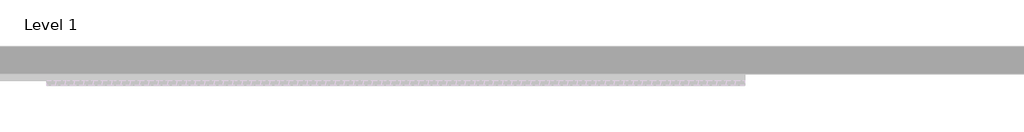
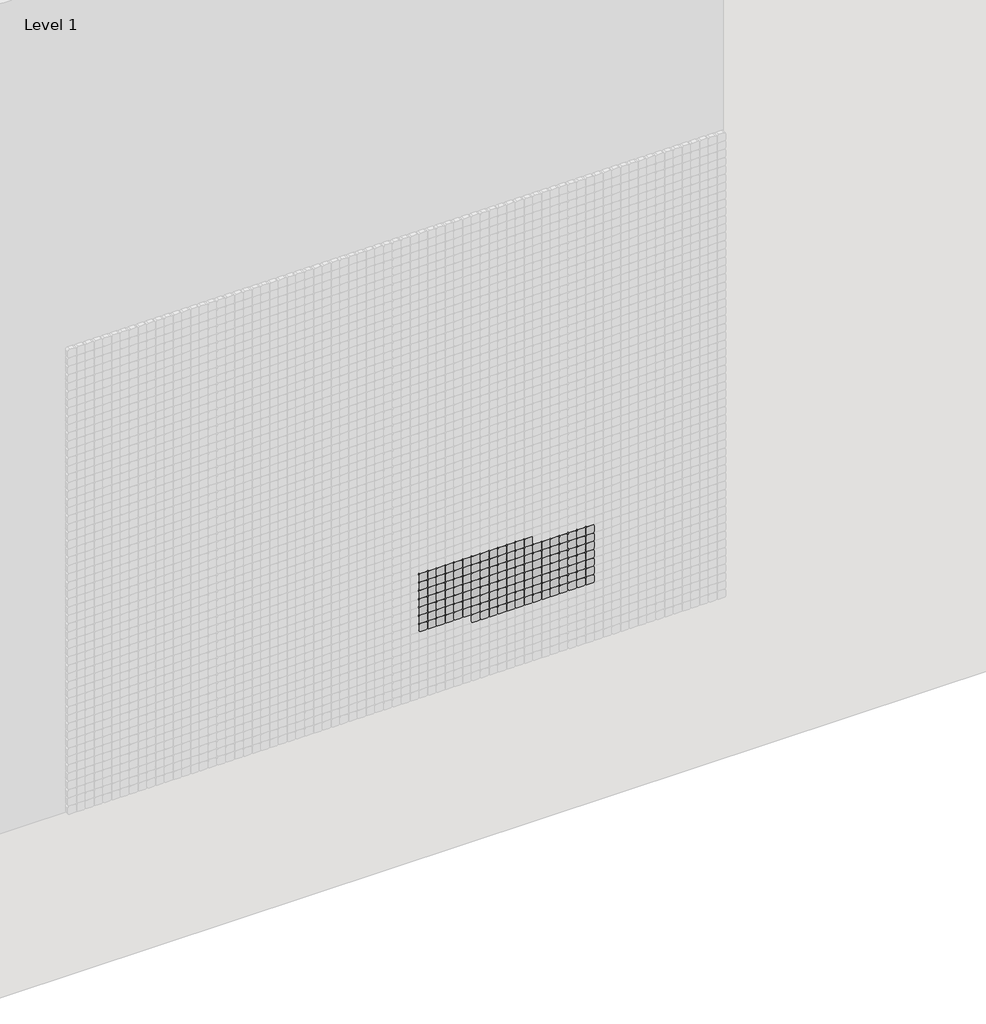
# One storey, part 60 of 71: 147 proxies.
"""IFC4 building model written with IfcOpenShell, lengths in millimetres."""

from ifc_helpers import new_model, si_unit, origin, place, context, project, spatial, transform, mapped, element, save
from components import generic_models_afde289c

model = new_model("IFC4")

# Units and contexts
model_context = context("Model", 3, world=origin())
ifc_project = project(units=[si_unit("LENGTHUNIT", "METRE", prefix="MILLI")], contexts=[model_context])

# Site, building, storey
site = spatial("IfcSite", under=ifc_project)
building = spatial("IfcBuilding", under=site)
storey = spatial("IfcBuildingStorey", under=building, Name="Level 1", Elevation=0.0)

# Proxies
placement = place(None, origin())
generic_models_shape = generic_models_afde289c(model_context)
element("IfcBuildingElementProxy", 1, Name="Pixel_M : Pixel_M", ObjectType="Pixel_M : Pixel_M", at=placement, inside=storey, context=model_context, shape_type="MappedRepresentation", body=[
    mapped(generic_models_shape, transform((8612.4280941, -75.0, 1716.3566215), x_axis=(1.0, 0.0, 0.0), y_axis=(0.0, 0.0, 1.0), z_axis=(0.0, -1.0, 0.0))),
])
element("IfcBuildingElementProxy", 2, Name="Pixel_M : Pixel_M", ObjectType="Pixel_M : Pixel_M", at=placement, inside=storey, context=model_context, shape_type="MappedRepresentation", body=[
    mapped(generic_models_shape, transform((8562.4280941, -75.0, 1716.3566215), x_axis=(1.0, 0.0, 0.0), y_axis=(0.0, 0.0, 1.0), z_axis=(0.0, -1.0, 0.0))),
])
element("IfcBuildingElementProxy", 3, Name="Pixel_M : Pixel_M", ObjectType="Pixel_M : Pixel_M", at=placement, inside=storey, context=model_context, shape_type="MappedRepresentation", body=[
    mapped(generic_models_shape, transform((8512.4280941, -75.0, 1716.3566215), x_axis=(1.0, 0.0, 0.0), y_axis=(0.0, 0.0, 1.0), z_axis=(0.0, -1.0, 0.0))),
])
element("IfcBuildingElementProxy", 4, Name="Pixel_M : Pixel_M", ObjectType="Pixel_M : Pixel_M", at=placement, inside=storey, context=model_context, shape_type="MappedRepresentation", body=[
    mapped(generic_models_shape, transform((8462.4280941, -75.0, 1716.3566215), x_axis=(1.0, 0.0, 0.0), y_axis=(0.0, 0.0, 1.0), z_axis=(0.0, -1.0, 0.0))),
])
element("IfcBuildingElementProxy", 5, Name="Pixel_M : Pixel_M", ObjectType="Pixel_M : Pixel_M", at=placement, inside=storey, context=model_context, shape_type="MappedRepresentation", body=[
    mapped(generic_models_shape, transform((8412.4280941, -75.0, 1716.3566215), x_axis=(1.0, 0.0, 0.0), y_axis=(0.0, 0.0, 1.0), z_axis=(0.0, -1.0, 0.0))),
])
element("IfcBuildingElementProxy", 6, Name="Pixel_M : Pixel_M", ObjectType="Pixel_M : Pixel_M", at=placement, inside=storey, context=model_context, shape_type="MappedRepresentation", body=[
    mapped(generic_models_shape, transform((8362.4280941, -75.0, 1716.3566215), x_axis=(1.0, 0.0, 0.0), y_axis=(0.0, 0.0, 1.0), z_axis=(0.0, -1.0, 0.0))),
])
element("IfcBuildingElementProxy", 7, Name="Pixel_M : Pixel_M", ObjectType="Pixel_M : Pixel_M", at=placement, inside=storey, context=model_context, shape_type="MappedRepresentation", body=[
    mapped(generic_models_shape, transform((8312.4280941, -75.0, 1716.3566215), x_axis=(1.0, 0.0, 0.0), y_axis=(0.0, 0.0, 1.0), z_axis=(0.0, -1.0, 0.0))),
])
element("IfcBuildingElementProxy", 8, Name="Pixel_M : Pixel_M", ObjectType="Pixel_M : Pixel_M", at=placement, inside=storey, context=model_context, shape_type="MappedRepresentation", body=[
    mapped(generic_models_shape, transform((8262.4280941, -75.0, 1716.3566215), x_axis=(1.0, 0.0, 0.0), y_axis=(0.0, 0.0, 1.0), z_axis=(0.0, -1.0, 0.0))),
])
element("IfcBuildingElementProxy", 9, Name="Pixel_M : Pixel_M", ObjectType="Pixel_M : Pixel_M", at=placement, inside=storey, context=model_context, shape_type="MappedRepresentation", body=[
    mapped(generic_models_shape, transform((8212.4280941, -75.0, 1716.3566215), x_axis=(1.0, 0.0, 0.0), y_axis=(0.0, 0.0, 1.0), z_axis=(0.0, -1.0, 0.0))),
])
element("IfcBuildingElementProxy", 10, Name="Pixel_M : Pixel_M", ObjectType="Pixel_M : Pixel_M", at=placement, inside=storey, context=model_context, shape_type="MappedRepresentation", body=[
    mapped(generic_models_shape, transform((8162.4280941, -75.0, 1716.3566215), x_axis=(1.0, 0.0, 0.0), y_axis=(0.0, 0.0, 1.0), z_axis=(0.0, -1.0, 0.0))),
])
element("IfcBuildingElementProxy", 11, Name="Pixel_M : Pixel_M", ObjectType="Pixel_M : Pixel_M", at=placement, inside=storey, context=model_context, shape_type="MappedRepresentation", body=[
    mapped(generic_models_shape, transform((8112.4280941, -75.0, 1716.3566215), x_axis=(1.0, 0.0, 0.0), y_axis=(0.0, 0.0, 1.0), z_axis=(0.0, -1.0, 0.0))),
])
element("IfcBuildingElementProxy", 12, Name="Pixel_M : Pixel_M", ObjectType="Pixel_M : Pixel_M", at=placement, inside=storey, context=model_context, shape_type="MappedRepresentation", body=[
    mapped(generic_models_shape, transform((8062.4280941, -75.0, 1716.3566215), x_axis=(1.0, 0.0, 0.0), y_axis=(0.0, 0.0, 1.0), z_axis=(0.0, -1.0, 0.0))),
])
element("IfcBuildingElementProxy", 13, Name="Pixel_M : Pixel_M", ObjectType="Pixel_M : Pixel_M", at=placement, inside=storey, context=model_context, shape_type="MappedRepresentation", body=[
    mapped(generic_models_shape, transform((8012.4280941, -75.0, 1716.3566215), x_axis=(1.0, 0.0, 0.0), y_axis=(0.0, 0.0, 1.0), z_axis=(0.0, -1.0, 0.0))),
])
element("IfcBuildingElementProxy", 14, Name="Pixel_M : Pixel_M", ObjectType="Pixel_M : Pixel_M", at=placement, inside=storey, context=model_context, shape_type="MappedRepresentation", body=[
    mapped(generic_models_shape, transform((8962.4280941, -75.0, 1666.3566215), x_axis=(1.0, 0.0, 0.0), y_axis=(0.0, 0.0, 1.0), z_axis=(0.0, -1.0, 0.0))),
])
element("IfcBuildingElementProxy", 15, Name="Pixel_M : Pixel_M", ObjectType="Pixel_M : Pixel_M", at=placement, inside=storey, context=model_context, shape_type="MappedRepresentation", body=[
    mapped(generic_models_shape, transform((8912.4280941, -75.0, 1666.3566215), x_axis=(1.0, 0.0, 0.0), y_axis=(0.0, 0.0, 1.0), z_axis=(0.0, -1.0, 0.0))),
])
element("IfcBuildingElementProxy", 16, Name="Pixel_M : Pixel_M", ObjectType="Pixel_M : Pixel_M", at=placement, inside=storey, context=model_context, shape_type="MappedRepresentation", body=[
    mapped(generic_models_shape, transform((8862.4280941, -75.0, 1666.3566215), x_axis=(1.0, 0.0, 0.0), y_axis=(0.0, 0.0, 1.0), z_axis=(0.0, -1.0, 0.0))),
])
element("IfcBuildingElementProxy", 17, Name="Pixel_M : Pixel_M", ObjectType="Pixel_M : Pixel_M", at=placement, inside=storey, context=model_context, shape_type="MappedRepresentation", body=[
    mapped(generic_models_shape, transform((8812.4280941, -75.0, 1666.3566215), x_axis=(1.0, 0.0, 0.0), y_axis=(0.0, 0.0, 1.0), z_axis=(0.0, -1.0, 0.0))),
])
element("IfcBuildingElementProxy", 18, Name="Pixel_M : Pixel_M", ObjectType="Pixel_M : Pixel_M", at=placement, inside=storey, context=model_context, shape_type="MappedRepresentation", body=[
    mapped(generic_models_shape, transform((8762.4280941, -75.0, 1666.3566215), x_axis=(1.0, 0.0, 0.0), y_axis=(0.0, 0.0, 1.0), z_axis=(0.0, -1.0, 0.0))),
])
element("IfcBuildingElementProxy", 19, Name="Pixel_M : Pixel_M", ObjectType="Pixel_M : Pixel_M", at=placement, inside=storey, context=model_context, shape_type="MappedRepresentation", body=[
    mapped(generic_models_shape, transform((8712.4280941, -75.0, 1666.3566215), x_axis=(1.0, 0.0, 0.0), y_axis=(0.0, 0.0, 1.0), z_axis=(0.0, -1.0, 0.0))),
])
element("IfcBuildingElementProxy", 20, Name="Pixel_M : Pixel_M", ObjectType="Pixel_M : Pixel_M", at=placement, inside=storey, context=model_context, shape_type="MappedRepresentation", body=[
    mapped(generic_models_shape, transform((8662.4280941, -75.0, 1666.3566215), x_axis=(1.0, 0.0, 0.0), y_axis=(0.0, 0.0, 1.0), z_axis=(0.0, -1.0, 0.0))),
])
element("IfcBuildingElementProxy", 21, Name="Pixel_M : Pixel_M", ObjectType="Pixel_M : Pixel_M", at=placement, inside=storey, context=model_context, shape_type="MappedRepresentation", body=[
    mapped(generic_models_shape, transform((8612.4280941, -75.0, 1666.3566215), x_axis=(1.0, 0.0, 0.0), y_axis=(0.0, 0.0, 1.0), z_axis=(0.0, -1.0, 0.0))),
])
element("IfcBuildingElementProxy", 22, Name="Pixel_M : Pixel_M", ObjectType="Pixel_M : Pixel_M", at=placement, inside=storey, context=model_context, shape_type="MappedRepresentation", body=[
    mapped(generic_models_shape, transform((8562.4280941, -75.0, 1666.3566215), x_axis=(1.0, 0.0, 0.0), y_axis=(0.0, 0.0, 1.0), z_axis=(0.0, -1.0, 0.0))),
])
element("IfcBuildingElementProxy", 23, Name="Pixel_M : Pixel_M", ObjectType="Pixel_M : Pixel_M", at=placement, inside=storey, context=model_context, shape_type="MappedRepresentation", body=[
    mapped(generic_models_shape, transform((8512.4280941, -75.0, 1666.3566215), x_axis=(1.0, 0.0, 0.0), y_axis=(0.0, 0.0, 1.0), z_axis=(0.0, -1.0, 0.0))),
])
element("IfcBuildingElementProxy", 24, Name="Pixel_M : Pixel_M", ObjectType="Pixel_M : Pixel_M", at=placement, inside=storey, context=model_context, shape_type="MappedRepresentation", body=[
    mapped(generic_models_shape, transform((8462.4280941, -75.0, 1666.3566215), x_axis=(1.0, 0.0, 0.0), y_axis=(0.0, 0.0, 1.0), z_axis=(0.0, -1.0, 0.0))),
])
element("IfcBuildingElementProxy", 25, Name="Pixel_M : Pixel_M", ObjectType="Pixel_M : Pixel_M", at=placement, inside=storey, context=model_context, shape_type="MappedRepresentation", body=[
    mapped(generic_models_shape, transform((8412.4280941, -75.0, 1666.3566215), x_axis=(1.0, 0.0, 0.0), y_axis=(0.0, 0.0, 1.0), z_axis=(0.0, -1.0, 0.0))),
])
element("IfcBuildingElementProxy", 26, Name="Pixel_M : Pixel_M", ObjectType="Pixel_M : Pixel_M", at=placement, inside=storey, context=model_context, shape_type="MappedRepresentation", body=[
    mapped(generic_models_shape, transform((8362.4280941, -75.0, 1666.3566215), x_axis=(1.0, 0.0, 0.0), y_axis=(0.0, 0.0, 1.0), z_axis=(0.0, -1.0, 0.0))),
])
element("IfcBuildingElementProxy", 27, Name="Pixel_M : Pixel_M", ObjectType="Pixel_M : Pixel_M", at=placement, inside=storey, context=model_context, shape_type="MappedRepresentation", body=[
    mapped(generic_models_shape, transform((8312.4280941, -75.0, 1666.3566215), x_axis=(1.0, 0.0, 0.0), y_axis=(0.0, 0.0, 1.0), z_axis=(0.0, -1.0, 0.0))),
])
element("IfcBuildingElementProxy", 28, Name="Pixel_M : Pixel_M", ObjectType="Pixel_M : Pixel_M", at=placement, inside=storey, context=model_context, shape_type="MappedRepresentation", body=[
    mapped(generic_models_shape, transform((8262.4280941, -75.0, 1666.3566215), x_axis=(1.0, 0.0, 0.0), y_axis=(0.0, 0.0, 1.0), z_axis=(0.0, -1.0, 0.0))),
])
element("IfcBuildingElementProxy", 29, Name="Pixel_M : Pixel_M", ObjectType="Pixel_M : Pixel_M", at=placement, inside=storey, context=model_context, shape_type="MappedRepresentation", body=[
    mapped(generic_models_shape, transform((8212.4280941, -75.0, 1666.3566215), x_axis=(1.0, 0.0, 0.0), y_axis=(0.0, 0.0, 1.0), z_axis=(0.0, -1.0, 0.0))),
])
element("IfcBuildingElementProxy", 30, Name="Pixel_M : Pixel_M", ObjectType="Pixel_M : Pixel_M", at=placement, inside=storey, context=model_context, shape_type="MappedRepresentation", body=[
    mapped(generic_models_shape, transform((8162.4280941, -75.0, 1666.3566215), x_axis=(1.0, 0.0, 0.0), y_axis=(0.0, 0.0, 1.0), z_axis=(0.0, -1.0, 0.0))),
])
element("IfcBuildingElementProxy", 31, Name="Pixel_M : Pixel_M", ObjectType="Pixel_M : Pixel_M", at=placement, inside=storey, context=model_context, shape_type="MappedRepresentation", body=[
    mapped(generic_models_shape, transform((8112.4280941, -75.0, 1666.3566215), x_axis=(1.0, 0.0, 0.0), y_axis=(0.0, 0.0, 1.0), z_axis=(0.0, -1.0, 0.0))),
])
element("IfcBuildingElementProxy", 32, Name="Pixel_M : Pixel_M", ObjectType="Pixel_M : Pixel_M", at=placement, inside=storey, context=model_context, shape_type="MappedRepresentation", body=[
    mapped(generic_models_shape, transform((8062.4280941, -75.0, 1666.3566215), x_axis=(1.0, 0.0, 0.0), y_axis=(0.0, 0.0, 1.0), z_axis=(0.0, -1.0, 0.0))),
])
element("IfcBuildingElementProxy", 33, Name="Pixel_M : Pixel_M", ObjectType="Pixel_M : Pixel_M", at=placement, inside=storey, context=model_context, shape_type="MappedRepresentation", body=[
    mapped(generic_models_shape, transform((8012.4280941, -75.0, 1666.3566215), x_axis=(1.0, 0.0, 0.0), y_axis=(0.0, 0.0, 1.0), z_axis=(0.0, -1.0, 0.0))),
])
element("IfcBuildingElementProxy", 34, Name="Pixel_M : Pixel_M", ObjectType="Pixel_M : Pixel_M", at=placement, inside=storey, context=model_context, shape_type="MappedRepresentation", body=[
    mapped(generic_models_shape, transform((8962.4280941, -75.0, 1616.3566215), x_axis=(1.0, 0.0, 0.0), y_axis=(0.0, 0.0, 1.0), z_axis=(0.0, -1.0, 0.0))),
])
element("IfcBuildingElementProxy", 35, Name="Pixel_M : Pixel_M", ObjectType="Pixel_M : Pixel_M", at=placement, inside=storey, context=model_context, shape_type="MappedRepresentation", body=[
    mapped(generic_models_shape, transform((8912.4280941, -75.0, 1616.3566215), x_axis=(1.0, 0.0, 0.0), y_axis=(0.0, 0.0, 1.0), z_axis=(0.0, -1.0, 0.0))),
])
element("IfcBuildingElementProxy", 36, Name="Pixel_M : Pixel_M", ObjectType="Pixel_M : Pixel_M", at=placement, inside=storey, context=model_context, shape_type="MappedRepresentation", body=[
    mapped(generic_models_shape, transform((8862.4280941, -75.0, 1616.3566215), x_axis=(1.0, 0.0, 0.0), y_axis=(0.0, 0.0, 1.0), z_axis=(0.0, -1.0, 0.0))),
])
element("IfcBuildingElementProxy", 37, Name="Pixel_M : Pixel_M", ObjectType="Pixel_M : Pixel_M", at=placement, inside=storey, context=model_context, shape_type="MappedRepresentation", body=[
    mapped(generic_models_shape, transform((8812.4280941, -75.0, 1616.3566215), x_axis=(1.0, 0.0, 0.0), y_axis=(0.0, 0.0, 1.0), z_axis=(0.0, -1.0, 0.0))),
])
element("IfcBuildingElementProxy", 38, Name="Pixel_M : Pixel_M", ObjectType="Pixel_M : Pixel_M", at=placement, inside=storey, context=model_context, shape_type="MappedRepresentation", body=[
    mapped(generic_models_shape, transform((8762.4280941, -75.0, 1616.3566215), x_axis=(1.0, 0.0, 0.0), y_axis=(0.0, 0.0, 1.0), z_axis=(0.0, -1.0, 0.0))),
])
element("IfcBuildingElementProxy", 39, Name="Pixel_M : Pixel_M", ObjectType="Pixel_M : Pixel_M", at=placement, inside=storey, context=model_context, shape_type="MappedRepresentation", body=[
    mapped(generic_models_shape, transform((8712.4280941, -75.0, 1616.3566215), x_axis=(1.0, 0.0, 0.0), y_axis=(0.0, 0.0, 1.0), z_axis=(0.0, -1.0, 0.0))),
])
element("IfcBuildingElementProxy", 40, Name="Pixel_M : Pixel_M", ObjectType="Pixel_M : Pixel_M", at=placement, inside=storey, context=model_context, shape_type="MappedRepresentation", body=[
    mapped(generic_models_shape, transform((8662.4280941, -75.0, 1616.3566215), x_axis=(1.0, 0.0, 0.0), y_axis=(0.0, 0.0, 1.0), z_axis=(0.0, -1.0, 0.0))),
])
element("IfcBuildingElementProxy", 41, Name="Pixel_M : Pixel_M", ObjectType="Pixel_M : Pixel_M", at=placement, inside=storey, context=model_context, shape_type="MappedRepresentation", body=[
    mapped(generic_models_shape, transform((8612.4280941, -75.0, 1616.3566215), x_axis=(1.0, 0.0, 0.0), y_axis=(0.0, 0.0, 1.0), z_axis=(0.0, -1.0, 0.0))),
])
element("IfcBuildingElementProxy", 42, Name="Pixel_M : Pixel_M", ObjectType="Pixel_M : Pixel_M", at=placement, inside=storey, context=model_context, shape_type="MappedRepresentation", body=[
    mapped(generic_models_shape, transform((8562.4280941, -75.0, 1616.3566215), x_axis=(1.0, 0.0, 0.0), y_axis=(0.0, 0.0, 1.0), z_axis=(0.0, -1.0, 0.0))),
])
element("IfcBuildingElementProxy", 43, Name="Pixel_M : Pixel_M", ObjectType="Pixel_M : Pixel_M", at=placement, inside=storey, context=model_context, shape_type="MappedRepresentation", body=[
    mapped(generic_models_shape, transform((8512.4280941, -75.0, 1616.3566215), x_axis=(1.0, 0.0, 0.0), y_axis=(0.0, 0.0, 1.0), z_axis=(0.0, -1.0, 0.0))),
])
element("IfcBuildingElementProxy", 44, Name="Pixel_M : Pixel_M", ObjectType="Pixel_M : Pixel_M", at=placement, inside=storey, context=model_context, shape_type="MappedRepresentation", body=[
    mapped(generic_models_shape, transform((8462.4280941, -75.0, 1616.3566215), x_axis=(1.0, 0.0, 0.0), y_axis=(0.0, 0.0, 1.0), z_axis=(0.0, -1.0, 0.0))),
])
element("IfcBuildingElementProxy", 45, Name="Pixel_M : Pixel_M", ObjectType="Pixel_M : Pixel_M", at=placement, inside=storey, context=model_context, shape_type="MappedRepresentation", body=[
    mapped(generic_models_shape, transform((8412.4280941, -75.0, 1616.3566215), x_axis=(1.0, 0.0, 0.0), y_axis=(0.0, 0.0, 1.0), z_axis=(0.0, -1.0, 0.0))),
])
element("IfcBuildingElementProxy", 46, Name="Pixel_M : Pixel_M", ObjectType="Pixel_M : Pixel_M", at=placement, inside=storey, context=model_context, shape_type="MappedRepresentation", body=[
    mapped(generic_models_shape, transform((8362.4280941, -75.0, 1616.3566215), x_axis=(1.0, 0.0, 0.0), y_axis=(0.0, 0.0, 1.0), z_axis=(0.0, -1.0, 0.0))),
])
element("IfcBuildingElementProxy", 47, Name="Pixel_M : Pixel_M", ObjectType="Pixel_M : Pixel_M", at=placement, inside=storey, context=model_context, shape_type="MappedRepresentation", body=[
    mapped(generic_models_shape, transform((8312.4280941, -75.0, 1616.3566215), x_axis=(1.0, 0.0, 0.0), y_axis=(0.0, 0.0, 1.0), z_axis=(0.0, -1.0, 0.0))),
])
element("IfcBuildingElementProxy", 48, Name="Pixel_M : Pixel_M", ObjectType="Pixel_M : Pixel_M", at=placement, inside=storey, context=model_context, shape_type="MappedRepresentation", body=[
    mapped(generic_models_shape, transform((8262.4280941, -75.0, 1616.3566215), x_axis=(1.0, 0.0, 0.0), y_axis=(0.0, 0.0, 1.0), z_axis=(0.0, -1.0, 0.0))),
])
element("IfcBuildingElementProxy", 49, Name="Pixel_M : Pixel_M", ObjectType="Pixel_M : Pixel_M", at=placement, inside=storey, context=model_context, shape_type="MappedRepresentation", body=[
    mapped(generic_models_shape, transform((8212.4280941, -75.0, 1616.3566215), x_axis=(1.0, 0.0, 0.0), y_axis=(0.0, 0.0, 1.0), z_axis=(0.0, -1.0, 0.0))),
])
element("IfcBuildingElementProxy", 50, Name="Pixel_M : Pixel_M", ObjectType="Pixel_M : Pixel_M", at=placement, inside=storey, context=model_context, shape_type="MappedRepresentation", body=[
    mapped(generic_models_shape, transform((8162.4280941, -75.0, 1616.3566215), x_axis=(1.0, 0.0, 0.0), y_axis=(0.0, 0.0, 1.0), z_axis=(0.0, -1.0, 0.0))),
])
element("IfcBuildingElementProxy", 51, Name="Pixel_M : Pixel_M", ObjectType="Pixel_M : Pixel_M", at=placement, inside=storey, context=model_context, shape_type="MappedRepresentation", body=[
    mapped(generic_models_shape, transform((8112.4280941, -75.0, 1616.3566215), x_axis=(1.0, 0.0, 0.0), y_axis=(0.0, 0.0, 1.0), z_axis=(0.0, -1.0, 0.0))),
])
element("IfcBuildingElementProxy", 52, Name="Pixel_M : Pixel_M", ObjectType="Pixel_M : Pixel_M", at=placement, inside=storey, context=model_context, shape_type="MappedRepresentation", body=[
    mapped(generic_models_shape, transform((8062.4280941, -75.0, 1616.3566215), x_axis=(1.0, 0.0, 0.0), y_axis=(0.0, 0.0, 1.0), z_axis=(0.0, -1.0, 0.0))),
])
element("IfcBuildingElementProxy", 53, Name="Pixel_M : Pixel_M", ObjectType="Pixel_M : Pixel_M", at=placement, inside=storey, context=model_context, shape_type="MappedRepresentation", body=[
    mapped(generic_models_shape, transform((8012.4280941, -75.0, 1616.3566215), x_axis=(1.0, 0.0, 0.0), y_axis=(0.0, 0.0, 1.0), z_axis=(0.0, -1.0, 0.0))),
])
element("IfcBuildingElementProxy", 54, Name="Pixel_M : Pixel_M", ObjectType="Pixel_M : Pixel_M", at=placement, inside=storey, context=model_context, shape_type="MappedRepresentation", body=[
    mapped(generic_models_shape, transform((8962.4280941, -75.0, 1566.3566215), x_axis=(1.0, 0.0, 0.0), y_axis=(0.0, 0.0, 1.0), z_axis=(0.0, -1.0, 0.0))),
])
element("IfcBuildingElementProxy", 55, Name="Pixel_M : Pixel_M", ObjectType="Pixel_M : Pixel_M", at=placement, inside=storey, context=model_context, shape_type="MappedRepresentation", body=[
    mapped(generic_models_shape, transform((8912.4280941, -75.0, 1566.3566215), x_axis=(1.0, 0.0, 0.0), y_axis=(0.0, 0.0, 1.0), z_axis=(0.0, -1.0, 0.0))),
])
element("IfcBuildingElementProxy", 56, Name="Pixel_M : Pixel_M", ObjectType="Pixel_M : Pixel_M", at=placement, inside=storey, context=model_context, shape_type="MappedRepresentation", body=[
    mapped(generic_models_shape, transform((8862.4280941, -75.0, 1566.3566215), x_axis=(1.0, 0.0, 0.0), y_axis=(0.0, 0.0, 1.0), z_axis=(0.0, -1.0, 0.0))),
])
element("IfcBuildingElementProxy", 57, Name="Pixel_M : Pixel_M", ObjectType="Pixel_M : Pixel_M", at=placement, inside=storey, context=model_context, shape_type="MappedRepresentation", body=[
    mapped(generic_models_shape, transform((8812.4280941, -75.0, 1566.3566215), x_axis=(1.0, 0.0, 0.0), y_axis=(0.0, 0.0, 1.0), z_axis=(0.0, -1.0, 0.0))),
])
element("IfcBuildingElementProxy", 58, Name="Pixel_M : Pixel_M", ObjectType="Pixel_M : Pixel_M", at=placement, inside=storey, context=model_context, shape_type="MappedRepresentation", body=[
    mapped(generic_models_shape, transform((8762.4280941, -75.0, 1566.3566215), x_axis=(1.0, 0.0, 0.0), y_axis=(0.0, 0.0, 1.0), z_axis=(0.0, -1.0, 0.0))),
])
element("IfcBuildingElementProxy", 59, Name="Pixel_M : Pixel_M", ObjectType="Pixel_M : Pixel_M", at=placement, inside=storey, context=model_context, shape_type="MappedRepresentation", body=[
    mapped(generic_models_shape, transform((8712.4280941, -75.0, 1566.3566215), x_axis=(1.0, 0.0, 0.0), y_axis=(0.0, 0.0, 1.0), z_axis=(0.0, -1.0, 0.0))),
])
element("IfcBuildingElementProxy", 60, Name="Pixel_M : Pixel_M", ObjectType="Pixel_M : Pixel_M", at=placement, inside=storey, context=model_context, shape_type="MappedRepresentation", body=[
    mapped(generic_models_shape, transform((8662.4280941, -75.0, 1566.3566215), x_axis=(1.0, 0.0, 0.0), y_axis=(0.0, 0.0, 1.0), z_axis=(0.0, -1.0, 0.0))),
])
element("IfcBuildingElementProxy", 61, Name="Pixel_M : Pixel_M", ObjectType="Pixel_M : Pixel_M", at=placement, inside=storey, context=model_context, shape_type="MappedRepresentation", body=[
    mapped(generic_models_shape, transform((8612.4280941, -75.0, 1566.3566215), x_axis=(1.0, 0.0, 0.0), y_axis=(0.0, 0.0, 1.0), z_axis=(0.0, -1.0, 0.0))),
])
element("IfcBuildingElementProxy", 62, Name="Pixel_M : Pixel_M", ObjectType="Pixel_M : Pixel_M", at=placement, inside=storey, context=model_context, shape_type="MappedRepresentation", body=[
    mapped(generic_models_shape, transform((8562.4280941, -75.0, 1566.3566215), x_axis=(1.0, 0.0, 0.0), y_axis=(0.0, 0.0, 1.0), z_axis=(0.0, -1.0, 0.0))),
])
element("IfcBuildingElementProxy", 63, Name="Pixel_M : Pixel_M", ObjectType="Pixel_M : Pixel_M", at=placement, inside=storey, context=model_context, shape_type="MappedRepresentation", body=[
    mapped(generic_models_shape, transform((8512.4280941, -75.0, 1566.3566215), x_axis=(1.0, 0.0, 0.0), y_axis=(0.0, 0.0, 1.0), z_axis=(0.0, -1.0, 0.0))),
])
element("IfcBuildingElementProxy", 64, Name="Pixel_M : Pixel_M", ObjectType="Pixel_M : Pixel_M", at=placement, inside=storey, context=model_context, shape_type="MappedRepresentation", body=[
    mapped(generic_models_shape, transform((8462.4280941, -75.0, 1566.3566215), x_axis=(1.0, 0.0, 0.0), y_axis=(0.0, 0.0, 1.0), z_axis=(0.0, -1.0, 0.0))),
])
element("IfcBuildingElementProxy", 65, Name="Pixel_M : Pixel_M", ObjectType="Pixel_M : Pixel_M", at=placement, inside=storey, context=model_context, shape_type="MappedRepresentation", body=[
    mapped(generic_models_shape, transform((8412.4280941, -75.0, 1566.3566215), x_axis=(1.0, 0.0, 0.0), y_axis=(0.0, 0.0, 1.0), z_axis=(0.0, -1.0, 0.0))),
])
element("IfcBuildingElementProxy", 66, Name="Pixel_M : Pixel_M", ObjectType="Pixel_M : Pixel_M", at=placement, inside=storey, context=model_context, shape_type="MappedRepresentation", body=[
    mapped(generic_models_shape, transform((8362.4280941, -75.0, 1566.3566215), x_axis=(1.0, 0.0, 0.0), y_axis=(0.0, 0.0, 1.0), z_axis=(0.0, -1.0, 0.0))),
])
element("IfcBuildingElementProxy", 67, Name="Pixel_M : Pixel_M", ObjectType="Pixel_M : Pixel_M", at=placement, inside=storey, context=model_context, shape_type="MappedRepresentation", body=[
    mapped(generic_models_shape, transform((8312.4280941, -75.0, 1566.3566215), x_axis=(1.0, 0.0, 0.0), y_axis=(0.0, 0.0, 1.0), z_axis=(0.0, -1.0, 0.0))),
])
element("IfcBuildingElementProxy", 68, Name="Pixel_M : Pixel_M", ObjectType="Pixel_M : Pixel_M", at=placement, inside=storey, context=model_context, shape_type="MappedRepresentation", body=[
    mapped(generic_models_shape, transform((8262.4280941, -75.0, 1566.3566215), x_axis=(1.0, 0.0, 0.0), y_axis=(0.0, 0.0, 1.0), z_axis=(0.0, -1.0, 0.0))),
])
element("IfcBuildingElementProxy", 69, Name="Pixel_M : Pixel_M", ObjectType="Pixel_M : Pixel_M", at=placement, inside=storey, context=model_context, shape_type="MappedRepresentation", body=[
    mapped(generic_models_shape, transform((8212.4280941, -75.0, 1566.3566215), x_axis=(1.0, 0.0, 0.0), y_axis=(0.0, 0.0, 1.0), z_axis=(0.0, -1.0, 0.0))),
])
element("IfcBuildingElementProxy", 70, Name="Pixel_M : Pixel_M", ObjectType="Pixel_M : Pixel_M", at=placement, inside=storey, context=model_context, shape_type="MappedRepresentation", body=[
    mapped(generic_models_shape, transform((8162.4280941, -75.0, 1566.3566215), x_axis=(1.0, 0.0, 0.0), y_axis=(0.0, 0.0, 1.0), z_axis=(0.0, -1.0, 0.0))),
])
element("IfcBuildingElementProxy", 71, Name="Pixel_M : Pixel_M", ObjectType="Pixel_M : Pixel_M", at=placement, inside=storey, context=model_context, shape_type="MappedRepresentation", body=[
    mapped(generic_models_shape, transform((8112.4280941, -75.0, 1566.3566215), x_axis=(1.0, 0.0, 0.0), y_axis=(0.0, 0.0, 1.0), z_axis=(0.0, -1.0, 0.0))),
])
element("IfcBuildingElementProxy", 72, Name="Pixel_M : Pixel_M", ObjectType="Pixel_M : Pixel_M", at=placement, inside=storey, context=model_context, shape_type="MappedRepresentation", body=[
    mapped(generic_models_shape, transform((8062.4280941, -75.0, 1566.3566215), x_axis=(1.0, 0.0, 0.0), y_axis=(0.0, 0.0, 1.0), z_axis=(0.0, -1.0, 0.0))),
])
element("IfcBuildingElementProxy", 73, Name="Pixel_M : Pixel_M", ObjectType="Pixel_M : Pixel_M", at=placement, inside=storey, context=model_context, shape_type="MappedRepresentation", body=[
    mapped(generic_models_shape, transform((8012.4280941, -75.0, 1566.3566215), x_axis=(1.0, 0.0, 0.0), y_axis=(0.0, 0.0, 1.0), z_axis=(0.0, -1.0, 0.0))),
])
element("IfcBuildingElementProxy", 74, Name="Pixel_M : Pixel_M", ObjectType="Pixel_M : Pixel_M", at=placement, inside=storey, context=model_context, shape_type="MappedRepresentation", body=[
    mapped(generic_models_shape, transform((8962.4280941, -75.0, 1516.3566215), x_axis=(1.0, 0.0, 0.0), y_axis=(0.0, 0.0, 1.0), z_axis=(0.0, -1.0, 0.0))),
])
element("IfcBuildingElementProxy", 75, Name="Pixel_M : Pixel_M", ObjectType="Pixel_M : Pixel_M", at=placement, inside=storey, context=model_context, shape_type="MappedRepresentation", body=[
    mapped(generic_models_shape, transform((8912.4280941, -75.0, 1516.3566215), x_axis=(1.0, 0.0, 0.0), y_axis=(0.0, 0.0, 1.0), z_axis=(0.0, -1.0, 0.0))),
])
element("IfcBuildingElementProxy", 76, Name="Pixel_M : Pixel_M", ObjectType="Pixel_M : Pixel_M", at=placement, inside=storey, context=model_context, shape_type="MappedRepresentation", body=[
    mapped(generic_models_shape, transform((8862.4280941, -75.0, 1516.3566215), x_axis=(1.0, 0.0, 0.0), y_axis=(0.0, 0.0, 1.0), z_axis=(0.0, -1.0, 0.0))),
])
element("IfcBuildingElementProxy", 77, Name="Pixel_M : Pixel_M", ObjectType="Pixel_M : Pixel_M", at=placement, inside=storey, context=model_context, shape_type="MappedRepresentation", body=[
    mapped(generic_models_shape, transform((8812.4280941, -75.0, 1516.3566215), x_axis=(1.0, 0.0, 0.0), y_axis=(0.0, 0.0, 1.0), z_axis=(0.0, -1.0, 0.0))),
])
element("IfcBuildingElementProxy", 78, Name="Pixel_M : Pixel_M", ObjectType="Pixel_M : Pixel_M", at=placement, inside=storey, context=model_context, shape_type="MappedRepresentation", body=[
    mapped(generic_models_shape, transform((8762.4280941, -75.0, 1516.3566215), x_axis=(1.0, 0.0, 0.0), y_axis=(0.0, 0.0, 1.0), z_axis=(0.0, -1.0, 0.0))),
])
element("IfcBuildingElementProxy", 79, Name="Pixel_M : Pixel_M", ObjectType="Pixel_M : Pixel_M", at=placement, inside=storey, context=model_context, shape_type="MappedRepresentation", body=[
    mapped(generic_models_shape, transform((8712.4280941, -75.0, 1516.3566215), x_axis=(1.0, 0.0, 0.0), y_axis=(0.0, 0.0, 1.0), z_axis=(0.0, -1.0, 0.0))),
])
element("IfcBuildingElementProxy", 80, Name="Pixel_M : Pixel_M", ObjectType="Pixel_M : Pixel_M", at=placement, inside=storey, context=model_context, shape_type="MappedRepresentation", body=[
    mapped(generic_models_shape, transform((8662.4280941, -75.0, 1516.3566215), x_axis=(1.0, 0.0, 0.0), y_axis=(0.0, 0.0, 1.0), z_axis=(0.0, -1.0, 0.0))),
])
element("IfcBuildingElementProxy", 81, Name="Pixel_M : Pixel_M", ObjectType="Pixel_M : Pixel_M", at=placement, inside=storey, context=model_context, shape_type="MappedRepresentation", body=[
    mapped(generic_models_shape, transform((8612.4280941, -75.0, 1516.3566215), x_axis=(1.0, 0.0, 0.0), y_axis=(0.0, 0.0, 1.0), z_axis=(0.0, -1.0, 0.0))),
])
element("IfcBuildingElementProxy", 82, Name="Pixel_M : Pixel_M", ObjectType="Pixel_M : Pixel_M", at=placement, inside=storey, context=model_context, shape_type="MappedRepresentation", body=[
    mapped(generic_models_shape, transform((8562.4280941, -75.0, 1516.3566215), x_axis=(1.0, 0.0, 0.0), y_axis=(0.0, 0.0, 1.0), z_axis=(0.0, -1.0, 0.0))),
])
element("IfcBuildingElementProxy", 83, Name="Pixel_M : Pixel_M", ObjectType="Pixel_M : Pixel_M", at=placement, inside=storey, context=model_context, shape_type="MappedRepresentation", body=[
    mapped(generic_models_shape, transform((8512.4280941, -75.0, 1516.3566215), x_axis=(1.0, 0.0, 0.0), y_axis=(0.0, 0.0, 1.0), z_axis=(0.0, -1.0, 0.0))),
])
element("IfcBuildingElementProxy", 84, Name="Pixel_M : Pixel_M", ObjectType="Pixel_M : Pixel_M", at=placement, inside=storey, context=model_context, shape_type="MappedRepresentation", body=[
    mapped(generic_models_shape, transform((8462.4280941, -75.0, 1516.3566215), x_axis=(1.0, 0.0, 0.0), y_axis=(0.0, 0.0, 1.0), z_axis=(0.0, -1.0, 0.0))),
])
element("IfcBuildingElementProxy", 85, Name="Pixel_M : Pixel_M", ObjectType="Pixel_M : Pixel_M", at=placement, inside=storey, context=model_context, shape_type="MappedRepresentation", body=[
    mapped(generic_models_shape, transform((8412.4280941, -75.0, 1516.3566215), x_axis=(1.0, 0.0, 0.0), y_axis=(0.0, 0.0, 1.0), z_axis=(0.0, -1.0, 0.0))),
])
element("IfcBuildingElementProxy", 86, Name="Pixel_M : Pixel_M", ObjectType="Pixel_M : Pixel_M", at=placement, inside=storey, context=model_context, shape_type="MappedRepresentation", body=[
    mapped(generic_models_shape, transform((8362.4280941, -75.0, 1516.3566215), x_axis=(1.0, 0.0, 0.0), y_axis=(0.0, 0.0, 1.0), z_axis=(0.0, -1.0, 0.0))),
])
element("IfcBuildingElementProxy", 87, Name="Pixel_M : Pixel_M", ObjectType="Pixel_M : Pixel_M", at=placement, inside=storey, context=model_context, shape_type="MappedRepresentation", body=[
    mapped(generic_models_shape, transform((8312.4280941, -75.0, 1516.3566215), x_axis=(1.0, 0.0, 0.0), y_axis=(0.0, 0.0, 1.0), z_axis=(0.0, -1.0, 0.0))),
])
element("IfcBuildingElementProxy", 88, Name="Pixel_M : Pixel_M", ObjectType="Pixel_M : Pixel_M", at=placement, inside=storey, context=model_context, shape_type="MappedRepresentation", body=[
    mapped(generic_models_shape, transform((8262.4280941, -75.0, 1516.3566215), x_axis=(1.0, 0.0, 0.0), y_axis=(0.0, 0.0, 1.0), z_axis=(0.0, -1.0, 0.0))),
])
element("IfcBuildingElementProxy", 89, Name="Pixel_M : Pixel_M", ObjectType="Pixel_M : Pixel_M", at=placement, inside=storey, context=model_context, shape_type="MappedRepresentation", body=[
    mapped(generic_models_shape, transform((8212.4280941, -75.0, 1516.3566215), x_axis=(1.0, 0.0, 0.0), y_axis=(0.0, 0.0, 1.0), z_axis=(0.0, -1.0, 0.0))),
])
element("IfcBuildingElementProxy", 90, Name="Pixel_M : Pixel_M", ObjectType="Pixel_M : Pixel_M", at=placement, inside=storey, context=model_context, shape_type="MappedRepresentation", body=[
    mapped(generic_models_shape, transform((8162.4280941, -75.0, 1516.3566215), x_axis=(1.0, 0.0, 0.0), y_axis=(0.0, 0.0, 1.0), z_axis=(0.0, -1.0, 0.0))),
])
element("IfcBuildingElementProxy", 91, Name="Pixel_M : Pixel_M", ObjectType="Pixel_M : Pixel_M", at=placement, inside=storey, context=model_context, shape_type="MappedRepresentation", body=[
    mapped(generic_models_shape, transform((8112.4280941, -75.0, 1516.3566215), x_axis=(1.0, 0.0, 0.0), y_axis=(0.0, 0.0, 1.0), z_axis=(0.0, -1.0, 0.0))),
])
element("IfcBuildingElementProxy", 92, Name="Pixel_M : Pixel_M", ObjectType="Pixel_M : Pixel_M", at=placement, inside=storey, context=model_context, shape_type="MappedRepresentation", body=[
    mapped(generic_models_shape, transform((8062.4280941, -75.0, 1516.3566215), x_axis=(1.0, 0.0, 0.0), y_axis=(0.0, 0.0, 1.0), z_axis=(0.0, -1.0, 0.0))),
])
element("IfcBuildingElementProxy", 93, Name="Pixel_M : Pixel_M", ObjectType="Pixel_M : Pixel_M", at=placement, inside=storey, context=model_context, shape_type="MappedRepresentation", body=[
    mapped(generic_models_shape, transform((8012.4280941, -75.0, 1516.3566215), x_axis=(1.0, 0.0, 0.0), y_axis=(0.0, 0.0, 1.0), z_axis=(0.0, -1.0, 0.0))),
])
element("IfcBuildingElementProxy", 94, Name="Pixel_M : Pixel_M", ObjectType="Pixel_M : Pixel_M", at=placement, inside=storey, context=model_context, shape_type="MappedRepresentation", body=[
    mapped(generic_models_shape, transform((8962.4280941, -75.0, 1466.3566215), x_axis=(1.0, 0.0, 0.0), y_axis=(0.0, 0.0, 1.0), z_axis=(0.0, -1.0, 0.0))),
])
element("IfcBuildingElementProxy", 95, Name="Pixel_M : Pixel_M", ObjectType="Pixel_M : Pixel_M", at=placement, inside=storey, context=model_context, shape_type="MappedRepresentation", body=[
    mapped(generic_models_shape, transform((8912.4280941, -75.0, 1466.3566215), x_axis=(1.0, 0.0, 0.0), y_axis=(0.0, 0.0, 1.0), z_axis=(0.0, -1.0, 0.0))),
])
element("IfcBuildingElementProxy", 96, Name="Pixel_M : Pixel_M", ObjectType="Pixel_M : Pixel_M", at=placement, inside=storey, context=model_context, shape_type="MappedRepresentation", body=[
    mapped(generic_models_shape, transform((8862.4280941, -75.0, 1466.3566215), x_axis=(1.0, 0.0, 0.0), y_axis=(0.0, 0.0, 1.0), z_axis=(0.0, -1.0, 0.0))),
])
element("IfcBuildingElementProxy", 97, Name="Pixel_M : Pixel_M", ObjectType="Pixel_M : Pixel_M", at=placement, inside=storey, context=model_context, shape_type="MappedRepresentation", body=[
    mapped(generic_models_shape, transform((8812.4280941, -75.0, 1466.3566215), x_axis=(1.0, 0.0, 0.0), y_axis=(0.0, 0.0, 1.0), z_axis=(0.0, -1.0, 0.0))),
])
element("IfcBuildingElementProxy", 98, Name="Pixel_M : Pixel_M", ObjectType="Pixel_M : Pixel_M", at=placement, inside=storey, context=model_context, shape_type="MappedRepresentation", body=[
    mapped(generic_models_shape, transform((8762.4280941, -75.0, 1466.3566215), x_axis=(1.0, 0.0, 0.0), y_axis=(0.0, 0.0, 1.0), z_axis=(0.0, -1.0, 0.0))),
])
element("IfcBuildingElementProxy", 99, Name="Pixel_M : Pixel_M", ObjectType="Pixel_M : Pixel_M", at=placement, inside=storey, context=model_context, shape_type="MappedRepresentation", body=[
    mapped(generic_models_shape, transform((8712.4280941, -75.0, 1466.3566215), x_axis=(1.0, 0.0, 0.0), y_axis=(0.0, 0.0, 1.0), z_axis=(0.0, -1.0, 0.0))),
])
element("IfcBuildingElementProxy", 100, Name="Pixel_M : Pixel_M", ObjectType="Pixel_M : Pixel_M", at=placement, inside=storey, context=model_context, shape_type="MappedRepresentation", body=[
    mapped(generic_models_shape, transform((8662.4280941, -75.0, 1466.3566215), x_axis=(1.0, 0.0, 0.0), y_axis=(0.0, 0.0, 1.0), z_axis=(0.0, -1.0, 0.0))),
])
element("IfcBuildingElementProxy", 101, Name="Pixel_M : Pixel_M", ObjectType="Pixel_M : Pixel_M", at=placement, inside=storey, context=model_context, shape_type="MappedRepresentation", body=[
    mapped(generic_models_shape, transform((8612.4280941, -75.0, 1466.3566215), x_axis=(1.0, 0.0, 0.0), y_axis=(0.0, 0.0, 1.0), z_axis=(0.0, -1.0, 0.0))),
])
element("IfcBuildingElementProxy", 102, Name="Pixel_M : Pixel_M", ObjectType="Pixel_M : Pixel_M", at=placement, inside=storey, context=model_context, shape_type="MappedRepresentation", body=[
    mapped(generic_models_shape, transform((8562.4280941, -75.0, 1466.3566215), x_axis=(1.0, 0.0, 0.0), y_axis=(0.0, 0.0, 1.0), z_axis=(0.0, -1.0, 0.0))),
])
element("IfcBuildingElementProxy", 103, Name="Pixel_M : Pixel_M", ObjectType="Pixel_M : Pixel_M", at=placement, inside=storey, context=model_context, shape_type="MappedRepresentation", body=[
    mapped(generic_models_shape, transform((8512.4280941, -75.0, 1466.3566215), x_axis=(1.0, 0.0, 0.0), y_axis=(0.0, 0.0, 1.0), z_axis=(0.0, -1.0, 0.0))),
])
element("IfcBuildingElementProxy", 104, Name="Pixel_M : Pixel_M", ObjectType="Pixel_M : Pixel_M", at=placement, inside=storey, context=model_context, shape_type="MappedRepresentation", body=[
    mapped(generic_models_shape, transform((8462.4280941, -75.0, 1466.3566215), x_axis=(1.0, 0.0, 0.0), y_axis=(0.0, 0.0, 1.0), z_axis=(0.0, -1.0, 0.0))),
])
element("IfcBuildingElementProxy", 105, Name="Pixel_M : Pixel_M", ObjectType="Pixel_M : Pixel_M", at=placement, inside=storey, context=model_context, shape_type="MappedRepresentation", body=[
    mapped(generic_models_shape, transform((8412.4280941, -75.0, 1466.3566215), x_axis=(1.0, 0.0, 0.0), y_axis=(0.0, 0.0, 1.0), z_axis=(0.0, -1.0, 0.0))),
])
element("IfcBuildingElementProxy", 106, Name="Pixel_M : Pixel_M", ObjectType="Pixel_M : Pixel_M", at=placement, inside=storey, context=model_context, shape_type="MappedRepresentation", body=[
    mapped(generic_models_shape, transform((8362.4280941, -75.0, 1466.3566215), x_axis=(1.0, 0.0, 0.0), y_axis=(0.0, 0.0, 1.0), z_axis=(0.0, -1.0, 0.0))),
])
element("IfcBuildingElementProxy", 107, Name="Pixel_M : Pixel_M", ObjectType="Pixel_M : Pixel_M", at=placement, inside=storey, context=model_context, shape_type="MappedRepresentation", body=[
    mapped(generic_models_shape, transform((8312.4280941, -75.0, 1466.3566215), x_axis=(1.0, 0.0, 0.0), y_axis=(0.0, 0.0, 1.0), z_axis=(0.0, -1.0, 0.0))),
])
element("IfcBuildingElementProxy", 108, Name="Pixel_M : Pixel_M", ObjectType="Pixel_M : Pixel_M", at=placement, inside=storey, context=model_context, shape_type="MappedRepresentation", body=[
    mapped(generic_models_shape, transform((8262.4280941, -75.0, 1466.3566215), x_axis=(1.0, 0.0, 0.0), y_axis=(0.0, 0.0, 1.0), z_axis=(0.0, -1.0, 0.0))),
])
element("IfcBuildingElementProxy", 109, Name="Pixel_M : Pixel_M", ObjectType="Pixel_M : Pixel_M", at=placement, inside=storey, context=model_context, shape_type="MappedRepresentation", body=[
    mapped(generic_models_shape, transform((8212.4280941, -75.0, 1466.3566215), x_axis=(1.0, 0.0, 0.0), y_axis=(0.0, 0.0, 1.0), z_axis=(0.0, -1.0, 0.0))),
])
element("IfcBuildingElementProxy", 110, Name="Pixel_M : Pixel_M", ObjectType="Pixel_M : Pixel_M", at=placement, inside=storey, context=model_context, shape_type="MappedRepresentation", body=[
    mapped(generic_models_shape, transform((8162.4280941, -75.0, 1466.3566215), x_axis=(1.0, 0.0, 0.0), y_axis=(0.0, 0.0, 1.0), z_axis=(0.0, -1.0, 0.0))),
])
element("IfcBuildingElementProxy", 111, Name="Pixel_M : Pixel_M", ObjectType="Pixel_M : Pixel_M", at=placement, inside=storey, context=model_context, shape_type="MappedRepresentation", body=[
    mapped(generic_models_shape, transform((8112.4280941, -75.0, 1466.3566215), x_axis=(1.0, 0.0, 0.0), y_axis=(0.0, 0.0, 1.0), z_axis=(0.0, -1.0, 0.0))),
])
element("IfcBuildingElementProxy", 112, Name="Pixel_M : Pixel_M", ObjectType="Pixel_M : Pixel_M", at=placement, inside=storey, context=model_context, shape_type="MappedRepresentation", body=[
    mapped(generic_models_shape, transform((8062.4280941, -75.0, 1466.3566215), x_axis=(1.0, 0.0, 0.0), y_axis=(0.0, 0.0, 1.0), z_axis=(0.0, -1.0, 0.0))),
])
element("IfcBuildingElementProxy", 113, Name="Pixel_M : Pixel_M", ObjectType="Pixel_M : Pixel_M", at=placement, inside=storey, context=model_context, shape_type="MappedRepresentation", body=[
    mapped(generic_models_shape, transform((8012.4280941, -75.0, 1466.3566215), x_axis=(1.0, 0.0, 0.0), y_axis=(0.0, 0.0, 1.0), z_axis=(0.0, -1.0, 0.0))),
])
element("IfcBuildingElementProxy", 114, Name="Pixel_M : Pixel_M", ObjectType="Pixel_M : Pixel_M", at=placement, inside=storey, context=model_context, shape_type="MappedRepresentation", body=[
    mapped(generic_models_shape, transform((8962.4280941, -75.0, 1416.3566215), x_axis=(1.0, 0.0, 0.0), y_axis=(0.0, 0.0, 1.0), z_axis=(0.0, -1.0, 0.0))),
])
element("IfcBuildingElementProxy", 115, Name="Pixel_M : Pixel_M", ObjectType="Pixel_M : Pixel_M", at=placement, inside=storey, context=model_context, shape_type="MappedRepresentation", body=[
    mapped(generic_models_shape, transform((8912.4280941, -75.0, 1416.3566215), x_axis=(1.0, 0.0, 0.0), y_axis=(0.0, 0.0, 1.0), z_axis=(0.0, -1.0, 0.0))),
])
element("IfcBuildingElementProxy", 116, Name="Pixel_M : Pixel_M", ObjectType="Pixel_M : Pixel_M", at=placement, inside=storey, context=model_context, shape_type="MappedRepresentation", body=[
    mapped(generic_models_shape, transform((8862.4280941, -75.0, 1416.3566215), x_axis=(1.0, 0.0, 0.0), y_axis=(0.0, 0.0, 1.0), z_axis=(0.0, -1.0, 0.0))),
])
element("IfcBuildingElementProxy", 117, Name="Pixel_M : Pixel_M", ObjectType="Pixel_M : Pixel_M", at=placement, inside=storey, context=model_context, shape_type="MappedRepresentation", body=[
    mapped(generic_models_shape, transform((8812.4280941, -75.0, 1416.3566215), x_axis=(1.0, 0.0, 0.0), y_axis=(0.0, 0.0, 1.0), z_axis=(0.0, -1.0, 0.0))),
])
element("IfcBuildingElementProxy", 118, Name="Pixel_M : Pixel_M", ObjectType="Pixel_M : Pixel_M", at=placement, inside=storey, context=model_context, shape_type="MappedRepresentation", body=[
    mapped(generic_models_shape, transform((8762.4280941, -75.0, 1416.3566215), x_axis=(1.0, 0.0, 0.0), y_axis=(0.0, 0.0, 1.0), z_axis=(0.0, -1.0, 0.0))),
])
element("IfcBuildingElementProxy", 119, Name="Pixel_M : Pixel_M", ObjectType="Pixel_M : Pixel_M", at=placement, inside=storey, context=model_context, shape_type="MappedRepresentation", body=[
    mapped(generic_models_shape, transform((8712.4280941, -75.0, 1416.3566215), x_axis=(1.0, 0.0, 0.0), y_axis=(0.0, 0.0, 1.0), z_axis=(0.0, -1.0, 0.0))),
])
element("IfcBuildingElementProxy", 120, Name="Pixel_M : Pixel_M", ObjectType="Pixel_M : Pixel_M", at=placement, inside=storey, context=model_context, shape_type="MappedRepresentation", body=[
    mapped(generic_models_shape, transform((8662.4280941, -75.0, 1416.3566215), x_axis=(1.0, 0.0, 0.0), y_axis=(0.0, 0.0, 1.0), z_axis=(0.0, -1.0, 0.0))),
])
element("IfcBuildingElementProxy", 121, Name="Pixel_M : Pixel_M", ObjectType="Pixel_M : Pixel_M", at=placement, inside=storey, context=model_context, shape_type="MappedRepresentation", body=[
    mapped(generic_models_shape, transform((8612.4280941, -75.0, 1416.3566215), x_axis=(1.0, 0.0, 0.0), y_axis=(0.0, 0.0, 1.0), z_axis=(0.0, -1.0, 0.0))),
])
element("IfcBuildingElementProxy", 122, Name="Pixel_M : Pixel_M", ObjectType="Pixel_M : Pixel_M", at=placement, inside=storey, context=model_context, shape_type="MappedRepresentation", body=[
    mapped(generic_models_shape, transform((8562.4280941, -75.0, 1416.3566215), x_axis=(1.0, 0.0, 0.0), y_axis=(0.0, 0.0, 1.0), z_axis=(0.0, -1.0, 0.0))),
])
element("IfcBuildingElementProxy", 123, Name="Pixel_M : Pixel_M", ObjectType="Pixel_M : Pixel_M", at=placement, inside=storey, context=model_context, shape_type="MappedRepresentation", body=[
    mapped(generic_models_shape, transform((8512.4280941, -75.0, 1416.3566215), x_axis=(1.0, 0.0, 0.0), y_axis=(0.0, 0.0, 1.0), z_axis=(0.0, -1.0, 0.0))),
])
element("IfcBuildingElementProxy", 124, Name="Pixel_M : Pixel_M", ObjectType="Pixel_M : Pixel_M", at=placement, inside=storey, context=model_context, shape_type="MappedRepresentation", body=[
    mapped(generic_models_shape, transform((8462.4280941, -75.0, 1416.3566215), x_axis=(1.0, 0.0, 0.0), y_axis=(0.0, 0.0, 1.0), z_axis=(0.0, -1.0, 0.0))),
])
element("IfcBuildingElementProxy", 125, Name="Pixel_M : Pixel_M", ObjectType="Pixel_M : Pixel_M", at=placement, inside=storey, context=model_context, shape_type="MappedRepresentation", body=[
    mapped(generic_models_shape, transform((8412.4280941, -75.0, 1416.3566215), x_axis=(1.0, 0.0, 0.0), y_axis=(0.0, 0.0, 1.0), z_axis=(0.0, -1.0, 0.0))),
])
element("IfcBuildingElementProxy", 126, Name="Pixel_M : Pixel_M", ObjectType="Pixel_M : Pixel_M", at=placement, inside=storey, context=model_context, shape_type="MappedRepresentation", body=[
    mapped(generic_models_shape, transform((8362.4280941, -75.0, 1416.3566215), x_axis=(1.0, 0.0, 0.0), y_axis=(0.0, 0.0, 1.0), z_axis=(0.0, -1.0, 0.0))),
])
element("IfcBuildingElementProxy", 127, Name="Pixel_M : Pixel_M", ObjectType="Pixel_M : Pixel_M", at=placement, inside=storey, context=model_context, shape_type="MappedRepresentation", body=[
    mapped(generic_models_shape, transform((8312.4280941, -75.0, 1416.3566215), x_axis=(1.0, 0.0, 0.0), y_axis=(0.0, 0.0, 1.0), z_axis=(0.0, -1.0, 0.0))),
])
element("IfcBuildingElementProxy", 128, Name="Pixel_M : Pixel_M", ObjectType="Pixel_M : Pixel_M", at=placement, inside=storey, context=model_context, shape_type="MappedRepresentation", body=[
    mapped(generic_models_shape, transform((8262.4280941, -75.0, 1416.3566215), x_axis=(1.0, 0.0, 0.0), y_axis=(0.0, 0.0, 1.0), z_axis=(0.0, -1.0, 0.0))),
])
element("IfcBuildingElementProxy", 129, Name="Pixel_M : Pixel_M", ObjectType="Pixel_M : Pixel_M", at=placement, inside=storey, context=model_context, shape_type="MappedRepresentation", body=[
    mapped(generic_models_shape, transform((8212.4280941, -75.0, 1416.3566215), x_axis=(1.0, 0.0, 0.0), y_axis=(0.0, 0.0, 1.0), z_axis=(0.0, -1.0, 0.0))),
])
element("IfcBuildingElementProxy", 130, Name="Pixel_M : Pixel_M", ObjectType="Pixel_M : Pixel_M", at=placement, inside=storey, context=model_context, shape_type="MappedRepresentation", body=[
    mapped(generic_models_shape, transform((8162.4280941, -75.0, 1416.3566215), x_axis=(1.0, 0.0, 0.0), y_axis=(0.0, 0.0, 1.0), z_axis=(0.0, -1.0, 0.0))),
])
element("IfcBuildingElementProxy", 131, Name="Pixel_M : Pixel_M", ObjectType="Pixel_M : Pixel_M", at=placement, inside=storey, context=model_context, shape_type="MappedRepresentation", body=[
    mapped(generic_models_shape, transform((8112.4280941, -75.0, 1416.3566215), x_axis=(1.0, 0.0, 0.0), y_axis=(0.0, 0.0, 1.0), z_axis=(0.0, -1.0, 0.0))),
])
element("IfcBuildingElementProxy", 132, Name="Pixel_M : Pixel_M", ObjectType="Pixel_M : Pixel_M", at=placement, inside=storey, context=model_context, shape_type="MappedRepresentation", body=[
    mapped(generic_models_shape, transform((8062.4280941, -75.0, 1416.3566215), x_axis=(1.0, 0.0, 0.0), y_axis=(0.0, 0.0, 1.0), z_axis=(0.0, -1.0, 0.0))),
])
element("IfcBuildingElementProxy", 133, Name="Pixel_M : Pixel_M", ObjectType="Pixel_M : Pixel_M", at=placement, inside=storey, context=model_context, shape_type="MappedRepresentation", body=[
    mapped(generic_models_shape, transform((8012.4280941, -75.0, 1416.3566215), x_axis=(1.0, 0.0, 0.0), y_axis=(0.0, 0.0, 1.0), z_axis=(0.0, -1.0, 0.0))),
])
element("IfcBuildingElementProxy", 134, Name="Pixel_M : Pixel_M", ObjectType="Pixel_M : Pixel_M", at=placement, inside=storey, context=model_context, shape_type="MappedRepresentation", body=[
    mapped(generic_models_shape, transform((8962.4280941, -75.0, 1366.3566215), x_axis=(1.0, 0.0, 0.0), y_axis=(0.0, 0.0, 1.0), z_axis=(0.0, -1.0, 0.0))),
])
element("IfcBuildingElementProxy", 135, Name="Pixel_M : Pixel_M", ObjectType="Pixel_M : Pixel_M", at=placement, inside=storey, context=model_context, shape_type="MappedRepresentation", body=[
    mapped(generic_models_shape, transform((8912.4280941, -75.0, 1366.3566215), x_axis=(1.0, 0.0, 0.0), y_axis=(0.0, 0.0, 1.0), z_axis=(0.0, -1.0, 0.0))),
])
element("IfcBuildingElementProxy", 136, Name="Pixel_M : Pixel_M", ObjectType="Pixel_M : Pixel_M", at=placement, inside=storey, context=model_context, shape_type="MappedRepresentation", body=[
    mapped(generic_models_shape, transform((8862.4280941, -75.0, 1366.3566215), x_axis=(1.0, 0.0, 0.0), y_axis=(0.0, 0.0, 1.0), z_axis=(0.0, -1.0, 0.0))),
])
element("IfcBuildingElementProxy", 137, Name="Pixel_M : Pixel_M", ObjectType="Pixel_M : Pixel_M", at=placement, inside=storey, context=model_context, shape_type="MappedRepresentation", body=[
    mapped(generic_models_shape, transform((8812.4280941, -75.0, 1366.3566215), x_axis=(1.0, 0.0, 0.0), y_axis=(0.0, 0.0, 1.0), z_axis=(0.0, -1.0, 0.0))),
])
element("IfcBuildingElementProxy", 138, Name="Pixel_M : Pixel_M", ObjectType="Pixel_M : Pixel_M", at=placement, inside=storey, context=model_context, shape_type="MappedRepresentation", body=[
    mapped(generic_models_shape, transform((8762.4280941, -75.0, 1366.3566215), x_axis=(1.0, 0.0, 0.0), y_axis=(0.0, 0.0, 1.0), z_axis=(0.0, -1.0, 0.0))),
])
element("IfcBuildingElementProxy", 139, Name="Pixel_M : Pixel_M", ObjectType="Pixel_M : Pixel_M", at=placement, inside=storey, context=model_context, shape_type="MappedRepresentation", body=[
    mapped(generic_models_shape, transform((8712.4280941, -75.0, 1366.3566215), x_axis=(1.0, 0.0, 0.0), y_axis=(0.0, 0.0, 1.0), z_axis=(0.0, -1.0, 0.0))),
])
element("IfcBuildingElementProxy", 140, Name="Pixel_M : Pixel_M", ObjectType="Pixel_M : Pixel_M", at=placement, inside=storey, context=model_context, shape_type="MappedRepresentation", body=[
    mapped(generic_models_shape, transform((8662.4280941, -75.0, 1366.3566215), x_axis=(1.0, 0.0, 0.0), y_axis=(0.0, 0.0, 1.0), z_axis=(0.0, -1.0, 0.0))),
])
element("IfcBuildingElementProxy", 141, Name="Pixel_M : Pixel_M", ObjectType="Pixel_M : Pixel_M", at=placement, inside=storey, context=model_context, shape_type="MappedRepresentation", body=[
    mapped(generic_models_shape, transform((8612.4280941, -75.0, 1366.3566215), x_axis=(1.0, 0.0, 0.0), y_axis=(0.0, 0.0, 1.0), z_axis=(0.0, -1.0, 0.0))),
])
element("IfcBuildingElementProxy", 142, Name="Pixel_M : Pixel_M", ObjectType="Pixel_M : Pixel_M", at=placement, inside=storey, context=model_context, shape_type="MappedRepresentation", body=[
    mapped(generic_models_shape, transform((8562.4280941, -75.0, 1366.3566215), x_axis=(1.0, 0.0, 0.0), y_axis=(0.0, 0.0, 1.0), z_axis=(0.0, -1.0, 0.0))),
])
element("IfcBuildingElementProxy", 143, Name="Pixel_M : Pixel_M", ObjectType="Pixel_M : Pixel_M", at=placement, inside=storey, context=model_context, shape_type="MappedRepresentation", body=[
    mapped(generic_models_shape, transform((8512.4280941, -75.0, 1366.3566215), x_axis=(1.0, 0.0, 0.0), y_axis=(0.0, 0.0, 1.0), z_axis=(0.0, -1.0, 0.0))),
])
element("IfcBuildingElementProxy", 144, Name="Pixel_M : Pixel_M", ObjectType="Pixel_M : Pixel_M", at=placement, inside=storey, context=model_context, shape_type="MappedRepresentation", body=[
    mapped(generic_models_shape, transform((8462.4280941, -75.0, 1366.3566215), x_axis=(1.0, 0.0, 0.0), y_axis=(0.0, 0.0, 1.0), z_axis=(0.0, -1.0, 0.0))),
])
element("IfcBuildingElementProxy", 145, Name="Pixel_M : Pixel_M", ObjectType="Pixel_M : Pixel_M", at=placement, inside=storey, context=model_context, shape_type="MappedRepresentation", body=[
    mapped(generic_models_shape, transform((8412.4280941, -75.0, 1366.3566215), x_axis=(1.0, 0.0, 0.0), y_axis=(0.0, 0.0, 1.0), z_axis=(0.0, -1.0, 0.0))),
])
element("IfcBuildingElementProxy", 146, Name="Pixel_M : Pixel_M", ObjectType="Pixel_M : Pixel_M", at=placement, inside=storey, context=model_context, shape_type="MappedRepresentation", body=[
    mapped(generic_models_shape, transform((8362.4280941, -75.0, 1366.3566215), x_axis=(1.0, 0.0, 0.0), y_axis=(0.0, 0.0, 1.0), z_axis=(0.0, -1.0, 0.0))),
])
element("IfcBuildingElementProxy", 147, Name="Pixel_M : Pixel_M", ObjectType="Pixel_M : Pixel_M", at=placement, inside=storey, context=model_context, shape_type="MappedRepresentation", body=[
    mapped(generic_models_shape, transform((8312.4280941, -75.0, 1366.3566215), x_axis=(1.0, 0.0, 0.0), y_axis=(0.0, 0.0, 1.0), z_axis=(0.0, -1.0, 0.0))),
])

save(model, "model.ifc")
